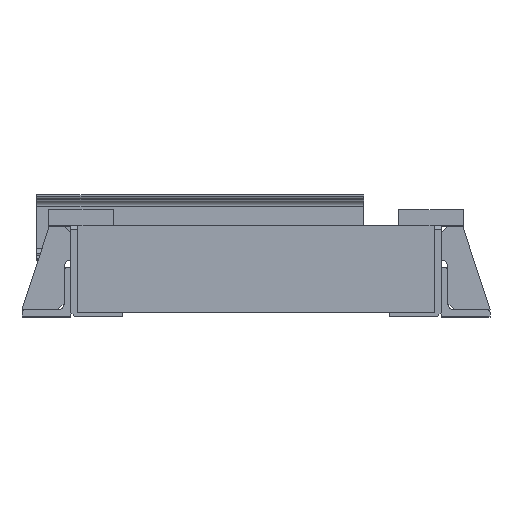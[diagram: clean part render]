
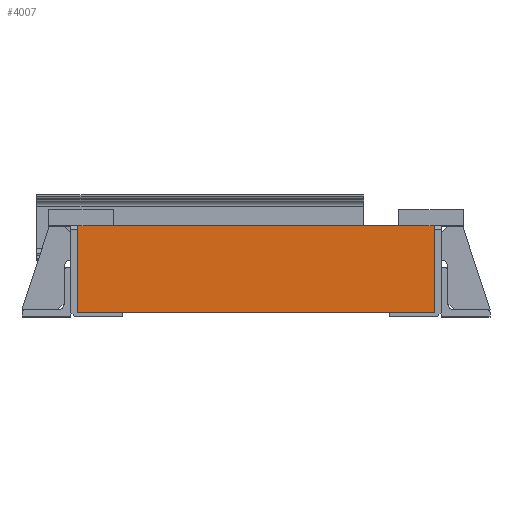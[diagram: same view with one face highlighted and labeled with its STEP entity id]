
A CAD part, top view. The second image highlights one B-rep face of the part: STEP entity #4007.
In plain terms, the highlighted planar face has unit normal (0, 0, 1).
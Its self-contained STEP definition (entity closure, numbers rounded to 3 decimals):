
#311=FACE_OUTER_BOUND('',#506,.T.);
#506=EDGE_LOOP('',(#3078,#3079,#3080,#3081,#3082,#3083));
#887=LINE('',#6097,#1340);
#918=LINE('',#6156,#1371);
#921=LINE('',#6162,#1374);
#925=LINE('',#6169,#1378);
#929=LINE('',#6175,#1382);
#931=LINE('',#6178,#1384);
#1340=VECTOR('',#4967,55.);
#1371=VECTOR('',#5010,133.);
#1374=VECTOR('',#5015,550.);
#1378=VECTOR('',#5021,133.);
#1382=VECTOR('',#5027,440.);
#1384=VECTOR('',#5031,55.);
#1760=VERTEX_POINT('',#6094);
#1761=VERTEX_POINT('',#6096);
#1783=VERTEX_POINT('',#6155);
#1785=VERTEX_POINT('',#6161);
#1787=VERTEX_POINT('',#6168);
#1788=VERTEX_POINT('',#6173);
#2224=EDGE_CURVE('',#1760,#1761,#887,.T.);
#2257=EDGE_CURVE('',#1783,#1761,#918,.T.);
#2260=EDGE_CURVE('',#1785,#1783,#921,.T.);
#2264=EDGE_CURVE('',#1787,#1785,#925,.T.);
#2268=EDGE_CURVE('',#1760,#1788,#929,.T.);
#2270=EDGE_CURVE('',#1787,#1788,#931,.T.);
#3078=ORIENTED_EDGE('',*,*,#2224,.F.);
#3079=ORIENTED_EDGE('',*,*,#2268,.T.);
#3080=ORIENTED_EDGE('',*,*,#2270,.F.);
#3081=ORIENTED_EDGE('',*,*,#2264,.T.);
#3082=ORIENTED_EDGE('',*,*,#2260,.T.);
#3083=ORIENTED_EDGE('',*,*,#2257,.T.);
#3665=PLANE('',#4257);
#4007=ADVANCED_FACE('',(#311),#3665,.T.);
#4257=AXIS2_PLACEMENT_3D('',#6177,#5029,#5030);
#4967=DIRECTION('',(1.,0.,0.));
#5010=DIRECTION('',(0.,1.,0.));
#5015=DIRECTION('',(1.,0.,0.));
#5021=DIRECTION('',(0.,-1.,0.));
#5027=DIRECTION('',(-1.,0.,0.));
#5029=DIRECTION('center_axis',(0.,0.,
1.));
#5030=DIRECTION('ref_axis',(1.,0.,0.));
#5031=DIRECTION('',(1.,0.,0.));
#6094=CARTESIAN_POINT('',(-87.971,117.029,1015.));
#6096=CARTESIAN_POINT('',(-32.971,117.029,1015.));
#6097=CARTESIAN_POINT('',(-197.971,117.029,1015.));
#6155=CARTESIAN_POINT('',(-32.971,-15.971,1015.));
#6156=CARTESIAN_POINT('',(-32.971,117.029,1015.));
#6161=CARTESIAN_POINT('',(-582.971,-15.971,1015.));
#6162=CARTESIAN_POINT('',(-32.971,-15.971,1015.));
#6168=CARTESIAN_POINT('',(-582.971,117.029,1015.));
#6169=CARTESIAN_POINT('',(-582.971,-15.971,1015.));
#6173=CARTESIAN_POINT('',(-527.971,117.029,1015.));
#6175=CARTESIAN_POINT('',(-582.971,117.029,1015.));
#6177=CARTESIAN_POINT('Origin',(-307.971,50.529,1015.));
#6178=CARTESIAN_POINT('',(-417.971,117.029,1015.));
